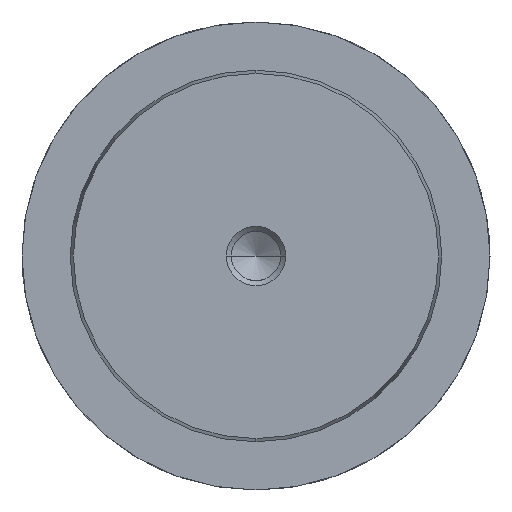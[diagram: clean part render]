
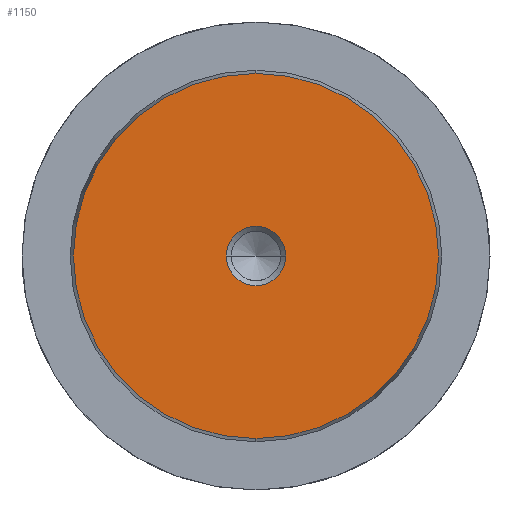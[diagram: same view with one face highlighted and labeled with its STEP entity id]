
A CAD part, left-side view. The second image highlights one B-rep face of the part: STEP entity #1150.
In plain terms, the highlighted planar face has unit normal (-1, 0, 0).
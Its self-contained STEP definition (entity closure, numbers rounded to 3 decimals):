
#1064=CARTESIAN_POINT('Vertex',(0.,0.,-24.578)) ;
#1067=CARTESIAN_POINT('Axis2P3D Location',(0.,0.,0.)) ;
#1071=CARTESIAN_POINT('Vertex',(0.,24.578,0.)) ;
#1074=CARTESIAN_POINT('Axis2P3D Location',(0.,0.,0.)) ;
#1078=CARTESIAN_POINT('Vertex',(0.,0.,24.578)) ;
#1100=CARTESIAN_POINT('Axis2P3D Location',(0.,0.,0.)) ;
#1104=CARTESIAN_POINT('Vertex',(0.,-24.578,0.)) ;
#1107=CARTESIAN_POINT('Axis2P3D Location',(0.,0.,0.)) ;
#1121=CARTESIAN_POINT('Axis2P3D Location',(0.,0.,0.)) ;
#1132=CARTESIAN_POINT('Axis2P3D Location',(0.,0.,0.)) ;
#1136=CARTESIAN_POINT('Vertex',(0.,4.,0.)) ;
#1138=CARTESIAN_POINT('Vertex',(0.,-4.,0.)) ;
#1141=CARTESIAN_POINT('Axis2P3D Location',(0.,0.,0.)) ;
#1068=DIRECTION('Axis2P3D Direction',(1.,0.,-0.)) ;
#1075=DIRECTION('Axis2P3D Direction',(1.,0.,-0.)) ;
#1101=DIRECTION('Axis2P3D Direction',(1.,0.,-0.)) ;
#1108=DIRECTION('Axis2P3D Direction',(1.,0.,-0.)) ;
#1122=DIRECTION('Axis2P3D Direction',(1.,0.,-0.)) ;
#1123=DIRECTION('Axis2P3D XDirection',(-0.,0.,-1.)) ;
#1133=DIRECTION('Axis2P3D Direction',(1.,0.,-0.)) ;
#1142=DIRECTION('Axis2P3D Direction',(1.,0.,-0.)) ;
#1069=AXIS2_PLACEMENT_3D('Circle Axis2P3D',#1067,#1068,$) ;
#1076=AXIS2_PLACEMENT_3D('Circle Axis2P3D',#1074,#1075,$) ;
#1102=AXIS2_PLACEMENT_3D('Circle Axis2P3D',#1100,#1101,$) ;
#1109=AXIS2_PLACEMENT_3D('Circle Axis2P3D',#1107,#1108,$) ;
#1124=AXIS2_PLACEMENT_3D('Plane Axis2P3D',#1121,#1122,#1123) ;
#1134=AXIS2_PLACEMENT_3D('Circle Axis2P3D',#1132,#1133,$) ;
#1143=AXIS2_PLACEMENT_3D('Circle Axis2P3D',#1141,#1142,$) ;
#1127=ORIENTED_EDGE('',*,*,#1073,.F.) ;
#1128=ORIENTED_EDGE('',*,*,#1111,.F.) ;
#1129=ORIENTED_EDGE('',*,*,#1106,.F.) ;
#1130=ORIENTED_EDGE('',*,*,#1080,.F.) ;
#1147=ORIENTED_EDGE('',*,*,#1140,.T.) ;
#1148=ORIENTED_EDGE('',*,*,#1145,.T.) ;
#1149=FACE_BOUND('',#1146,.T.) ;
#1150=ADVANCED_FACE('718-50x250',(#1131,#1149),#1125,.F.) ;
#1070=CIRCLE('generated circle',#1069,24.578) ;
#1077=CIRCLE('generated circle',#1076,24.578) ;
#1103=CIRCLE('generated circle',#1102,24.578) ;
#1110=CIRCLE('generated circle',#1109,24.578) ;
#1135=CIRCLE('generated circle',#1134,4.) ;
#1144=CIRCLE('generated circle',#1143,4.) ;
#1073=EDGE_CURVE('',#1065,#1072,#1070,.T.) ;
#1080=EDGE_CURVE('',#1072,#1079,#1077,.T.) ;
#1106=EDGE_CURVE('',#1079,#1105,#1103,.T.) ;
#1111=EDGE_CURVE('',#1105,#1065,#1110,.T.) ;
#1140=EDGE_CURVE('',#1137,#1139,#1135,.T.) ;
#1145=EDGE_CURVE('',#1139,#1137,#1144,.T.) ;
#1126=EDGE_LOOP('',(#1127,#1128,#1129,#1130)) ;
#1146=EDGE_LOOP('',(#1147,#1148)) ;
#1131=FACE_OUTER_BOUND('',#1126,.T.) ;
#1125=PLANE('Plane',#1124) ;
#1065=VERTEX_POINT('',#1064) ;
#1072=VERTEX_POINT('',#1071) ;
#1079=VERTEX_POINT('',#1078) ;
#1105=VERTEX_POINT('',#1104) ;
#1137=VERTEX_POINT('',#1136) ;
#1139=VERTEX_POINT('',#1138) ;
